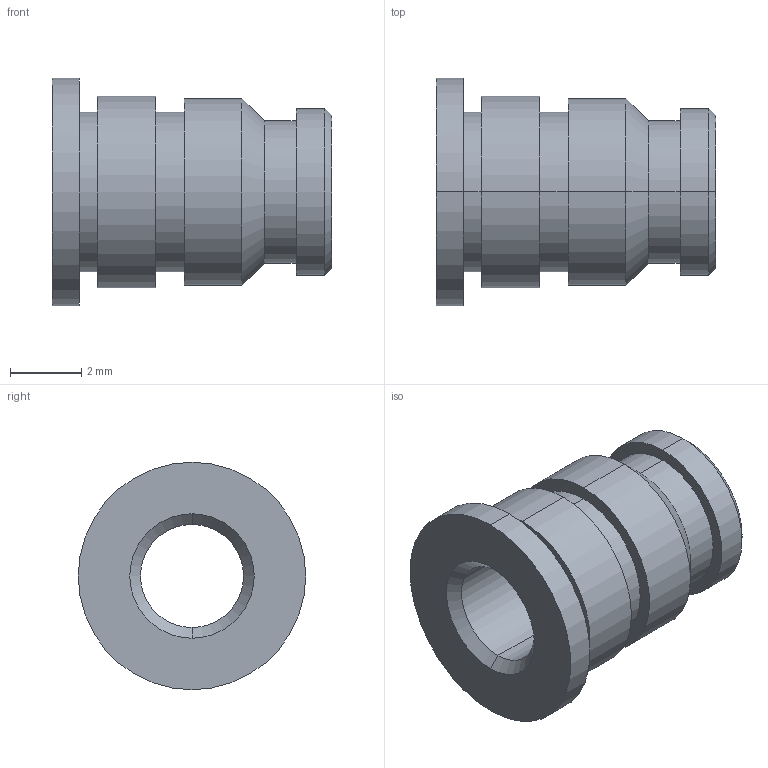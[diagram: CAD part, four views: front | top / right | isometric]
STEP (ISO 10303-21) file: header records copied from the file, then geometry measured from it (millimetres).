
FILE_DESCRIPTION (( 'STEP AP203' ), '1' );
FILE_NAME ('FSUK-HISH-M03.5-S.STEP', '2021-04-15T08:54:37', ( '' ), ( '' ), 'SwSTEP 2.0', 'SolidWorks 2021', '' );
FILE_SCHEMA (( 'CONFIG_CONTROL_DESIGN' ));
Length unit declared in the file: millimetre
Products named in the file (1): FSUK-HISH-M03.5-S
Bounding box: 7.86 x 6.4 x 6.4 mm (x, y, z)
Volume: 104.2 mm3; surface area: 271.3 mm2
Topology: 1 solids, 1 shells, 31 faces, 62 edges, 38 vertices
Faces by surface type: cylinder 16, cone 8, plane 7
Entity records: 895 total; most frequent: DIRECTION 164, CARTESIAN_POINT 132, ORIENTED_EDGE 124, AXIS2_PLACEMENT_3D 70, EDGE_CURVE 62, EDGE_LOOP 38, CIRCLE 38, VERTEX_POINT 38
